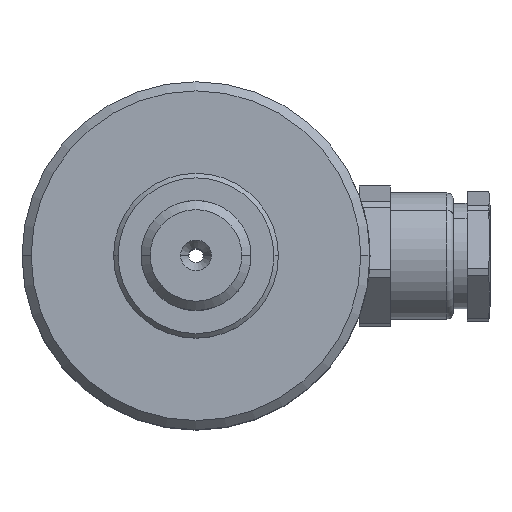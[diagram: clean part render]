
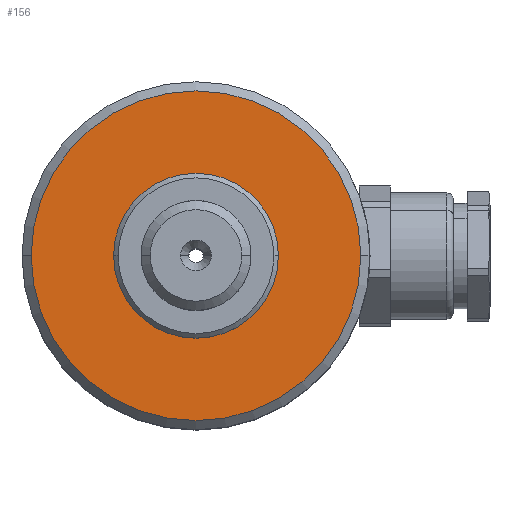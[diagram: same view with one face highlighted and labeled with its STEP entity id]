
A CAD part, top view. The second image highlights one B-rep face of the part: STEP entity #156.
In plain terms, the highlighted planar face has unit normal (0, 0, 1).
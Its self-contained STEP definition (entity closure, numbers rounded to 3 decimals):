
#4 = CARTESIAN_POINT ( 'NONE',  ( 0., 0., 52. ) ) ;
#156 = ADVANCED_FACE ( 'NONE', ( #2394, #2425 ), #2283, .T. ) ;
#455 = ORIENTED_EDGE ( 'NONE', *, *, #2380, .T. ) ;
#476 = ORIENTED_EDGE ( 'NONE', *, *, #2732, .T. ) ;
#497 = ORIENTED_EDGE ( 'NONE', *, *, #2186, .T. ) ;
#512 = ORIENTED_EDGE ( 'NONE', *, *, #2082, .T. ) ;
#770 = CIRCLE ( 'NONE', #1566, 18. ) ;
#831 = DIRECTION ( 'NONE',  ( 1., 0., 0. ) ) ;
#842 = DIRECTION ( 'NONE',  ( 0., 0., 1. ) ) ;
#844 = CARTESIAN_POINT ( 'NONE',  ( 0., 0., 52. ) ) ;
#969 = DIRECTION ( 'NONE',  ( 1., 0., 0. ) ) ;
#1072 = CIRCLE ( 'NONE', #1503, 18. ) ;
#1236 = CIRCLE ( 'NONE', #1443, 7.5 ) ;
#1312 = AXIS2_PLACEMENT_3D ( 'NONE', #2359, #2176, #2272 ) ;
#1387 = DIRECTION ( 'NONE',  ( 0., 0., -1. ) ) ;
#1404 = EDGE_LOOP ( 'NONE', ( #476, #455 ) ) ;
#1443 = AXIS2_PLACEMENT_3D ( 'NONE', #4, #1387, #969 ) ;
#1456 = EDGE_LOOP ( 'NONE', ( #512, #497 ) ) ;
#1503 = AXIS2_PLACEMENT_3D ( 'NONE', #2978, #2965, #2962 ) ;
#1566 = AXIS2_PLACEMENT_3D ( 'NONE', #844, #842, #831 ) ;
#1660 = VERTEX_POINT ( 'NONE', #2774 ) ;
#1810 = VERTEX_POINT ( 'NONE', #2107 ) ;
#1823 = VERTEX_POINT ( 'NONE', #2049 ) ;
#2049 = CARTESIAN_POINT ( 'NONE',  ( -18., 0., 52. ) ) ;
#2082 = EDGE_CURVE ( 'NONE', #1810, #1660, #1236, .T. ) ;
#2107 = CARTESIAN_POINT ( 'NONE',  ( 7.5, 0., 52. ) ) ;
#2176 = DIRECTION ( 'NONE',  ( 0., 0., 1. ) ) ;
#2186 = EDGE_CURVE ( 'NONE', #1660, #1810, #3004, .T. ) ;
#2224 = AXIS2_PLACEMENT_3D ( 'NONE', #2906, #2939, #2800 ) ;
#2272 = DIRECTION ( 'NONE',  ( 1., 0., 0. ) ) ;
#2283 = PLANE ( 'NONE',  #1312 ) ;
#2359 = CARTESIAN_POINT ( 'NONE',  ( 0., 0., 52. ) ) ;
#2380 = EDGE_CURVE ( 'NONE', #3154, #1823, #1072, .T. ) ;
#2394 = FACE_BOUND ( 'NONE', #1456, .T. ) ;
#2425 = FACE_OUTER_BOUND ( 'NONE', #1404, .T. ) ;
#2732 = EDGE_CURVE ( 'NONE', #1823, #3154, #770, .T. ) ;
#2774 = CARTESIAN_POINT ( 'NONE',  ( -7.5, 0., 52. ) ) ;
#2800 = DIRECTION ( 'NONE',  ( 1., 0., 0. ) ) ;
#2906 = CARTESIAN_POINT ( 'NONE',  ( 0., 0., 52. ) ) ;
#2939 = DIRECTION ( 'NONE',  ( 0., 0., -1. ) ) ;
#2962 = DIRECTION ( 'NONE',  ( 1., 0., 0. ) ) ;
#2965 = DIRECTION ( 'NONE',  ( 0., 0., 1. ) ) ;
#2978 = CARTESIAN_POINT ( 'NONE',  ( 0., 0., 52. ) ) ;
#3004 = CIRCLE ( 'NONE', #2224, 7.5 ) ;
#3154 = VERTEX_POINT ( 'NONE', #3333 ) ;
#3333 = CARTESIAN_POINT ( 'NONE',  ( 18., 0., 52. ) ) ;
